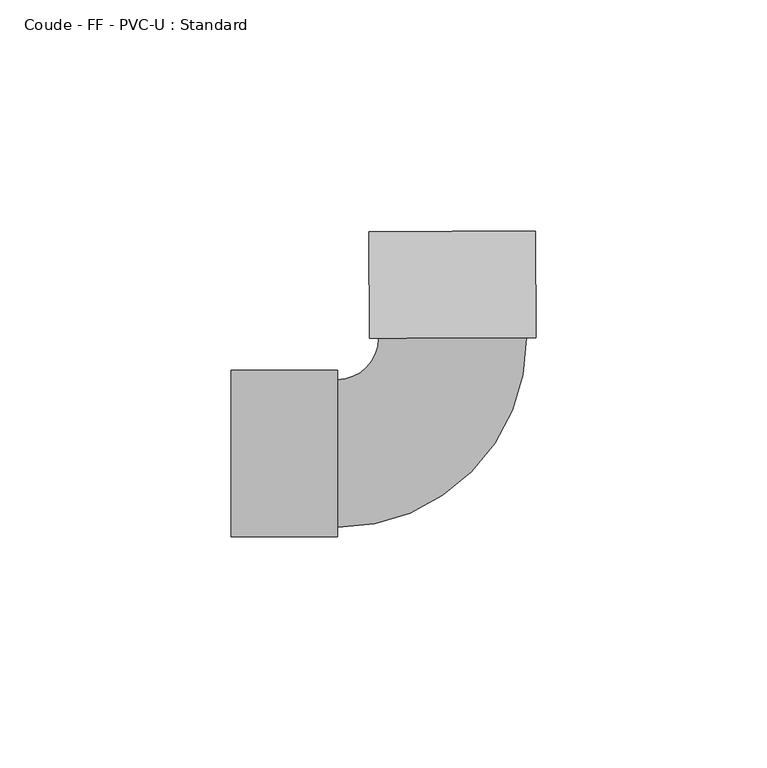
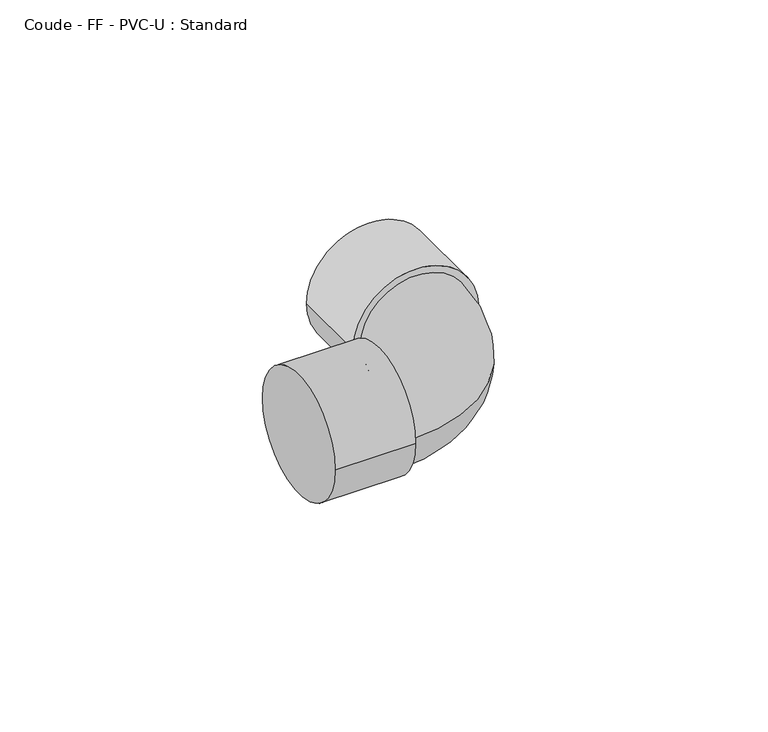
"""IFC4 building model written with IfcOpenShell, lengths in millimetres: pipe fitting geometry, Coude - FF - PVC-U : Standard."""

import ifcopenshell
import ifcopenshell.guid

model = None  # the IFC model being written
_history = None  # IfcOwnerHistory: only IFC2X3 demands one
_inside = {}  # id of a spatial element -> (the spatial element, [elements in it])
_under = {}  # id of a project, library or spatial element -> (it, [spatial elements below it])
_declared = {}  # id of a project -> (the project, [libraries it declares])
_typed = {}  # id of a type object -> (the type object, [elements of that type])
_made_of = {}  # id of a material, layer set ... -> (it, [elements and type objects made of it])


def new_model(schema):
    """Start an empty IFC model of exactly this schema.

    Asked for "IFC4X3", IfcOpenShell would pick the latest addendum, in which some entities
    have other attributes; the version numbers below select the first issue.
    IFC2X3 requires an IfcOwnerHistory on every rooted entity: one is made here for all.
    """
    global model, _history
    if schema == "IFC4X3":
        model = ifcopenshell.file(schema_version=(4, 3, 0, 0))
    else:
        model = ifcopenshell.file(schema=schema)
    _inside.clear()
    _under.clear()
    _declared.clear()
    _typed.clear()
    _made_of.clear()
    _history = None
    if model.schema == "IFC2X3":
        org = make("IfcOrganization", Name="unknown")
        user = make(
            "IfcPersonAndOrganization",
            ThePerson=make("IfcPerson", FamilyName="unknown"),
            TheOrganization=org,
        )
        app = make(
            "IfcApplication",
            ApplicationDeveloper=org,
            Version="unknown",
            ApplicationFullName="unknown",
            ApplicationIdentifier="unknown",
        )
        _history = make(
            "IfcOwnerHistory",
            OwningUser=user,
            OwningApplication=app,
            ChangeAction="ADDED",
            CreationDate=0,
        )
    return model


def make(cls, **values):
    """One entity of the class cls with the attributes given. An attribute that is None is left unset."""
    return model.create_entity(
        cls, **{name: value for name, value in values.items() if value is not None}
    )


def rooted(cls, **values):
    """An entity with a GlobalId (a new one), such as an element, a storey or a relation."""
    return make(cls, GlobalId=ifcopenshell.guid.new(), OwnerHistory=_history, **values)


def si_unit(unit_type, name, prefix=None):
    """IfcSIUnit, for example si_unit("LENGTHUNIT", "METRE", prefix="MILLI")."""
    return make("IfcSIUnit", UnitType=unit_type, Prefix=prefix, Name=name)


def assignment(units):
    """IfcUnitAssignment: the units of a project."""
    return None if units is None else make("IfcUnitAssignment", Units=units)


def point(xyz):
    """IfcCartesianPoint."""
    return None if xyz is None else make("IfcCartesianPoint", Coordinates=xyz)


def direction(xyz):
    """IfcDirection."""
    return None if xyz is None else make("IfcDirection", DirectionRatios=xyz)


def frame(location, z_axis=None, x_axis=None):
    """IfcAxis2Placement3D, a coordinate frame: its origin and axes. An axis left out is left unset."""
    return make(
        "IfcAxis2Placement3D",
        Location=point(location),
        Axis=direction(z_axis),
        RefDirection=direction(x_axis),
    )


def origin():
    """The frame at (0, 0, 0) with its axes left unset."""
    return frame((0.0, 0.0, 0.0))


def place(relative_to, where):
    """IfcLocalPlacement: puts the frame where relative to a parent placement (None: the world)."""
    return make(
        "IfcLocalPlacement", PlacementRelTo=relative_to, RelativePlacement=where
    )


def context(
    kind, dimensions, precision=None, world=None, true_north=None, identifier=None
):
    """IfcGeometricRepresentationContext, for example the 3D "Model" context."""
    return make(
        "IfcGeometricRepresentationContext",
        ContextIdentifier=identifier,
        ContextType=kind,
        CoordinateSpaceDimension=dimensions,
        Precision=precision,
        WorldCoordinateSystem=world,
        TrueNorth=true_north,
    )


def project(units=None, contexts=None):
    """IfcProject with its units and contexts."""
    return rooted(
        "IfcProject",
        Name="project",
        RepresentationContexts=contexts,
        UnitsInContext=assignment(units),
    )


def spatial(cls, under=None, at=None, **own):
    """A site, building, storey or space (cls), placed at a placement, below another one or the project."""
    s = rooted(cls, ObjectPlacement=at, **own)
    if under is not None:
        _under.setdefault(under.id(), (under, []))[1].append(s)
    return s


def circle_curve(where, radius):
    """IfcCircle in the frame where."""
    return make("IfcCircle", Position=where, Radius=radius)


def ellipse_curve(where, semi_axis1, semi_axis2):
    """IfcEllipse in the frame where."""
    return make(
        "IfcEllipse", Position=where, SemiAxis1=semi_axis1, SemiAxis2=semi_axis2
    )


def trimmed(basis, trim1, trim2, sense, master):
    """IfcTrimmedCurve: the piece of a basis curve between two trims."""
    return make(
        "IfcTrimmedCurve",
        BasisCurve=basis,
        Trim1=trim1,
        Trim2=trim2,
        SenseAgreement=sense,
        MasterRepresentation=master,
    )


def shape(context_of_items, identifier, shape_type, items):
    """IfcShapeRepresentation: the items that make up one representation, for example the "Body"."""
    return make(
        "IfcShapeRepresentation",
        ContextOfItems=context_of_items,
        RepresentationIdentifier=identifier,
        RepresentationType=shape_type,
        Items=items,
    )


def source(mapping_origin, context_of_items, identifier, shape_type, items):
    """IfcRepresentationMap: a shape defined once, which mapped items show again and again."""
    return make(
        "IfcRepresentationMap",
        MappingOrigin=mapping_origin,
        MappedRepresentation=shape(context_of_items, identifier, shape_type, items),
    )


def transform(
    local_origin,
    x_axis=None,
    y_axis=None,
    z_axis=None,
    scale=None,
    scale2=None,
    scale3=None,
    uniform=True,
):
    """IfcCartesianTransformationOperator3D, or its non-uniform kind. x_axis, y_axis, z_axis: its Axis1, 2, 3."""
    if uniform:
        return make(
            "IfcCartesianTransformationOperator3D",
            Axis1=direction(x_axis),
            Axis2=direction(y_axis),
            LocalOrigin=point(local_origin),
            Scale=scale,
            Axis3=direction(z_axis),
        )
    return make(
        "IfcCartesianTransformationOperator3DnonUniform",
        Axis1=direction(x_axis),
        Axis2=direction(y_axis),
        LocalOrigin=point(local_origin),
        Scale=scale,
        Axis3=direction(z_axis),
        Scale2=scale2,
        Scale3=scale3,
    )


def mapped(mapping_source, mapping_target):
    """IfcMappedItem: shows the shape of a source again, moved by a transform."""
    return make(
        "IfcMappedItem", MappingSource=mapping_source, MappingTarget=mapping_target
    )


def made_of(thing, what):
    """Note that an element or type object is made of a material, layer set ...; save() writes the relation."""
    if what is not None:
        _made_of.setdefault(what.id(), (what, []))[1].append(thing)
    return thing


def element(
    cls,
    number,
    at=None,
    inside=None,
    cuts=None,
    type_object=None,
    material=None,
    context=None,
    identifier="Body",
    shape_type=None,
    held_by="IfcProductDefinitionShape",
    body=None,
    shapes=None,
    **own,
):
    """One element of the class cls, such as IfcWall. Its Tag is "e" and its number.

    at: its placement. inside: the storey or other place that contains it. cuts: it is an
    opening in that element (IfcRelVoidsElement). A single representation is given by context,
    identifier, shape_type and body (its items); several are given by shapes. held_by: the class
    of the entity that holds the representations. save() writes the other relations.
    """
    e = rooted(cls, Tag="e%d" % number, ObjectPlacement=at, **own)
    if body is not None:
        shapes = [shape(context, identifier, shape_type, body)]
    if shapes is not None:
        e.Representation = make(held_by, Representations=shapes)
    if inside is not None:
        _inside.setdefault(inside.id(), (inside, []))[1].append(e)
    if cuts is not None:
        rooted(
            "IfcRelVoidsElement", RelatingBuildingElement=cuts, RelatedOpeningElement=e
        )
    if type_object is not None:
        _typed.setdefault(type_object.id(), (type_object, []))[1].append(e)
    return made_of(e, material)


def aggregate(whole, parts):
    """IfcRelAggregates: a whole, such as a stair, and the parts it consists of."""
    return rooted("IfcRelAggregates", RelatingObject=whole, RelatedObjects=parts)


def save(model, path):
    """Write the relations noted so far, then the file.

    IfcRelAggregates (storeys below a building ...), IfcRelContainedInSpatialStructure (elements
    in a storey), IfcRelDefinesByType, IfcRelAssociatesMaterial and IfcRelDeclares: one each for
    every whole, place, type object, material and project.
    """
    for whole, parts in _under.values():
        aggregate(whole, parts)
    for where, things in _inside.values():
        rooted(
            "IfcRelContainedInSpatialStructure",
            RelatedElements=things,
            RelatingStructure=where,
        )
    for kind, things in _typed.values():
        rooted("IfcRelDefinesByType", RelatedObjects=things, RelatingType=kind)
    for what, things in _made_of.values():
        rooted("IfcRelAssociatesMaterial", RelatedObjects=things, RelatingMaterial=what)
    for by, libraries in _declared.values():
        rooted("IfcRelDeclares", RelatingContext=by, RelatedDefinitions=libraries)
    model.write(path)


def plane_surface(at):
    """IfcPlane: the flat surface through the origin of the frame at, square to its z axis."""
    return make("IfcPlane", Position=at)


def cylinder_surface(at, radius):
    """IfcCylindricalSurface: all points at the distance radius from the z axis of the frame at."""
    return make("IfcCylindricalSurface", Position=at, Radius=radius)


def revolved_surface(curve, axis_point, axis_direction):
    """IfcSurfaceOfRevolution: the curve turned about the line through axis_point along axis_direction."""
    return make(
        "IfcSurfaceOfRevolution",
        SweptCurve=make("IfcArbitraryOpenProfileDef", ProfileType="CURVE", Curve=curve),
        AxisPosition=make("IfcAxis1Placement", Location=point(axis_point), Axis=direction(axis_direction)),
    )


def advanced_brep(points, edges, surfaces, faces):
    """IfcAdvancedBrep: a solid bounded by faces that lie on surfaces and meet in shared edges.

    An edge is (start, end): straight between two places in points (the first is 0);
    or (start, end, curve); or (start, end, curve, False) where it runs against its curve.
    A face is (place in surfaces, loops), or (place, loops, False) where it looks against
    its surface's normal. A loop lists edges by number (the first is 1), with a minus sign
    where the edge is run from its end to its start. The first loop is the outer one.
    """
    corners = [point(p) for p in points]
    vertices = [make("IfcVertexPoint", VertexGeometry=c) for c in corners]
    made = []
    for start, end, *more in edges:
        made.append(
            make(
                "IfcEdgeCurve",
                EdgeStart=vertices[start],
                EdgeEnd=vertices[end],
                EdgeGeometry=more[0] if more else make("IfcPolyline", Points=[corners[start], corners[end]]),
                SameSense=more[1] if len(more) > 1 else True,
            )
        )
    hull = []
    for where, loops, *sense in faces:
        bounds = []
        for j, loop in enumerate(loops):
            ring = [make("IfcOrientedEdge", EdgeElement=made[abs(k) - 1], Orientation=k > 0) for k in loop]
            bounds.append(
                make(
                    "IfcFaceOuterBound" if j == 0 else "IfcFaceBound",
                    Bound=make("IfcEdgeLoop", EdgeList=ring),
                    Orientation=True,
                )
            )
        hull.append(make("IfcAdvancedFace", Bounds=bounds, FaceSurface=surfaces[where], SameSense=sense[0] if sense else True))
    return make("IfcAdvancedBrep", Outer=make("IfcClosedShell", CfsFaces=hull))


def coude_ff_pvc_u_standard_f58f643d(model_context):
    return source(origin(), model_context, "Body", "AdvancedBrep", [
        advanced_brep(
        [(-48.0, -18.0, 0.0), (-48.0, 18.0, 0.0), (-25.0, -18.0, 0.0), (-25.0, 18.0, 0.0), (-25.0, -16.0, 0.0), (-25.0, 16.0, 0.0), (-16.0776599, 24.9501273, 0.0), (15.9221854, 25.049631, 0.0), (17.9221757, 25.05585, 0.0), (-18.0776502, 24.9439083, 0.0), (17.8506574, 48.0557388, 0.0), (-18.1491685, 47.9437971, 0.0)],
        [
            (0, 1, circle_curve(frame((-48.0, 0.0, 0.0), z_axis=(-1.0, 0.0, 0.0), x_axis=(0.0, 1.0, 0.0)), 18.0)),
            (1, 0, circle_curve(frame((-48.0, 0.0, 0.0), z_axis=(-1.0, 0.0, 0.0), x_axis=(0.0, 1.0, 0.0)), 18.0)),
            (2, 3, circle_curve(frame((-25.0, 0.0, 0.0), z_axis=(1.0, 0.0, 0.0), x_axis=(0.0, 1.0, 0.0)), 18.0)),
            (3, 2, circle_curve(frame((-25.0, 0.0, 0.0), z_axis=(1.0, 0.0, 0.0), x_axis=(0.0, 1.0, 0.0)), 18.0)),
            (4, 5, circle_curve(frame((-25.0, 0.0, 0.0), z_axis=(-1.0, 0.0, 0.0), x_axis=(0.0, 1.0, 0.0)), 16.0)),
            (5, 4, circle_curve(frame((-25.0, 0.0, 0.0), z_axis=(-1.0, 0.0, 0.0), x_axis=(0.0, 1.0, 0.0)), 16.0)),
            (0, 2),
            (3, 1),
            (6, 5, circle_curve(frame((-25.0, 24.9223832, 0.0), z_axis=(0.0, 0.0, -1.0), x_axis=(0.0, -1.0, 0.0)), 8.9223832)),
            (4, 7, circle_curve(frame((-25.0, 24.9223832, 0.0), z_axis=(0.0, 0.0, 1.0), x_axis=(0.0, -1.0, 0.0)), 40.9223832)),
            (7, 6, circle_curve(frame((-0.0777373, 24.9998791, 0.0), z_axis=(0.0031094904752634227, -0.999995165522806, 0.0), x_axis=(-0.999995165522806, -0.0031094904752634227, 0.0)), 16.0)),
            (6, 7, circle_curve(frame((-0.0777373, 24.9998791, 0.0), z_axis=(0.0031094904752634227, -0.999995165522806, 0.0), x_axis=(-0.999995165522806, -0.0031094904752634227, 0.0)), 16.0)),
            (8, 9, circle_curve(frame((-0.0777373, 24.9998791, 0.0), z_axis=(0.003109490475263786, -0.9999951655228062, 0.0), x_axis=(-0.999995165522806, -0.0031094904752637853, 0.0)), 18.0)),
            (9, 8, circle_curve(frame((-0.0777373, 24.9998791, 0.0), z_axis=(0.003109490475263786, -0.9999951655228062, 0.0), x_axis=(-0.999995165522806, -0.0031094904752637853, 0.0)), 18.0)),
            (10, 11, circle_curve(frame((-0.1492555, 47.9997679, 0.0), z_axis=(-0.003109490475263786, 0.9999951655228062, 0.0), x_axis=(-0.999995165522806, -0.0031094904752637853, 0.0)), 18.0)),
            (11, 10, circle_curve(frame((-0.1492555, 47.9997679, 0.0), z_axis=(-0.003109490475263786, 0.9999951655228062, 0.0), x_axis=(-0.999995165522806, -0.0031094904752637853, 0.0)), 18.0)),
            (8, 10),
            (11, 9),
        ],
        [
            plane_surface(frame((-48.0, 0.0, 0.0), z_axis=(-1.0, 0.0, 0.0), x_axis=(0.0, 0.0, 1.0))),
            plane_surface(frame((-25.0, 0.0, 0.0), z_axis=(1.0, 0.0, 0.0), x_axis=(0.0, 0.0, 1.0))),
            cylinder_surface(frame((-48.0, 0.0, 0.0), z_axis=(-1.0, 0.0, 0.0), x_axis=(0.0, 1.0, 0.0)), 18.0),
            revolved_surface(trimmed(ellipse_curve(frame((-25.0, 0.0, 0.0), z_axis=(-1.0, 0.0, 0.0), x_axis=(0.0, 1.0, 0.0)), 16.0, 16.0), [point((-25.0, -16.0, 0.0))], [point((-25.0, 16.0, 0.0))], True, "CARTESIAN"), (-25.0, 24.9223832, 0.0), (0.0, 0.0, 1.0)),
            revolved_surface(trimmed(ellipse_curve(frame((-25.0, 0.0, 0.0), z_axis=(-1.0, 0.0, 0.0), x_axis=(0.0, 1.0, 0.0)), 16.0, 16.0), [point((-25.0, 16.0, 0.0))], [point((-25.0, -16.0, 0.0))], True, "CARTESIAN"), (-25.0, 24.9223832, 0.0), (0.0, 0.0, 1.0)),
            plane_surface(frame((-0.0777373, 24.9998791, 0.0), z_axis=(0.0031094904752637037, -0.9999951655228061, 0.0), x_axis=(0.0, 0.0, 1.0))),
            plane_surface(frame((-0.1492555, 47.9997679, 0.0), z_axis=(-0.0031094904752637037, 0.9999951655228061, 0.0), x_axis=(0.0, 0.0, 1.0))),
            cylinder_surface(frame((-0.0777373, 24.9998791, 0.0), z_axis=(0.0031094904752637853, -0.999995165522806, 0.0), x_axis=(-0.999995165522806, -0.0031094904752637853, 0.0)), 18.0),
        ],
        [
            (0, [[1, 2]]),
            (1, [[3, 4], [5, 6]]),
            (2, [[-1, 7, -4, 8]]),
            (2, [[-2, -8, -3, -7]]),
            (3, [[9, -5, 10, 11]]),
            (4, [[-9, 12, -10, -6]]),
            (5, [[13, 14], [-11, -12]]),
            (6, [[15, 16]]),
            (7, [[-13, 17, -16, 18]]),
            (7, [[-14, -18, -15, -17]]),
        ],
    ),
    ])


if __name__ == "__main__":
    model = new_model("IFC4")
    model_context = context("Model", 3, world=origin())
    ifc_project = project(units=[si_unit("LENGTHUNIT", "METRE", prefix="MILLI")], contexts=[model_context])
    site = spatial("IfcSite", under=ifc_project)
    building = spatial("IfcBuilding", under=site)
    placement = place(None, origin())
    coude_ff_pvc_u_standard_shape = coude_ff_pvc_u_standard_f58f643d(model_context)
    element("IfcPipeFitting", 1, ObjectType="Coude - FF - PVC-U : Standard", at=placement, inside=building, context=model_context, shape_type="MappedRepresentation", body=[
        mapped(coude_ff_pvc_u_standard_shape, transform((0.0, 0.0, 0.0), x_axis=(1.0, 0.0, 0.0), y_axis=(0.0, 1.0, 0.0), z_axis=(0.0, 0.0, 1.0))),
    ])
    save(model, "model.ifc")
